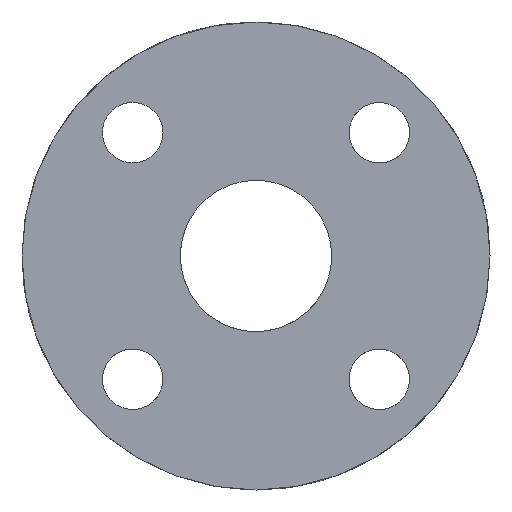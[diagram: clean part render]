
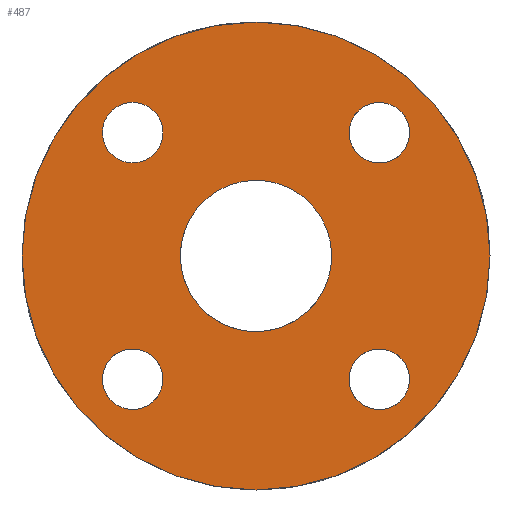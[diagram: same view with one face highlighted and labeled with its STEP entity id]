
A CAD part, left-side view. The second image highlights one B-rep face of the part: STEP entity #487.
In plain terms, the highlighted planar face has unit normal (-1, 0, 0).
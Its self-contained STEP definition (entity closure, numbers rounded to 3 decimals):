
#63=CARTESIAN_POINT('Vertex',(0.,10.539,11.853)) ;
#89=CARTESIAN_POINT('Vertex',(0.,16.331,15.017)) ;
#93=CARTESIAN_POINT('Control Point',(0.,10.539,11.853)) ;
#94=CARTESIAN_POINT('Control Point',(0.,10.788,11.398)) ;
#95=CARTESIAN_POINT('Control Point',(0.,11.125,10.992)) ;
#96=CARTESIAN_POINT('Control Point',(0.,11.54,10.658)) ;
#97=CARTESIAN_POINT('Control Point',(0.,12.477,10.171)) ;
#98=CARTESIAN_POINT('Control Point',(0.,13.529,10.074)) ;
#99=CARTESIAN_POINT('Control Point',(0.,14.059,10.131)) ;
#100=CARTESIAN_POINT('Control Point',(0.,15.066,10.45)) ;
#101=CARTESIAN_POINT('Control Point',(0.,15.878,11.125)) ;
#102=CARTESIAN_POINT('Control Point',(0.,16.212,11.54)) ;
#103=CARTESIAN_POINT('Control Point',(0.,16.699,12.477)) ;
#104=CARTESIAN_POINT('Control Point',(0.,16.796,13.529)) ;
#105=CARTESIAN_POINT('Control Point',(0.,16.739,14.059)) ;
#106=CARTESIAN_POINT('Control Point',(0.,16.58,14.562)) ;
#107=CARTESIAN_POINT('Control Point',(0.,16.331,15.017)) ;
#126=CARTESIAN_POINT('Axis2P3D Location',(0.,13.435,13.435)) ;
#388=CARTESIAN_POINT('Axis2P3D Location',(0.,0.,0.)) ;
#393=CARTESIAN_POINT('Axis2P3D Location',(0.,0.,0.)) ;
#397=CARTESIAN_POINT('Vertex',(0.,-25.5,0.)) ;
#399=CARTESIAN_POINT('Vertex',(0.,25.5,0.)) ;
#402=CARTESIAN_POINT('Axis2P3D Location',(0.,0.,0.)) ;
#415=CARTESIAN_POINT('Axis2P3D Location',(0.,0.,0.)) ;
#419=CARTESIAN_POINT('Vertex',(0.,-7.24,-3.955)) ;
#421=CARTESIAN_POINT('Vertex',(0.,7.24,3.955)) ;
#424=CARTESIAN_POINT('Axis2P3D Location',(0.,0.,0.)) ;
#433=CARTESIAN_POINT('Axis2P3D Location',(0.,-13.435,13.435)) ;
#437=CARTESIAN_POINT('Vertex',(0.,-15.017,16.331)) ;
#439=CARTESIAN_POINT('Vertex',(0.,-11.853,10.539)) ;
#442=CARTESIAN_POINT('Axis2P3D Location',(0.,-13.435,13.435)) ;
#451=CARTESIAN_POINT('Axis2P3D Location',(0.,-13.435,-13.435)) ;
#455=CARTESIAN_POINT('Vertex',(0.,-16.331,-15.017)) ;
#457=CARTESIAN_POINT('Vertex',(0.,-10.539,-11.853)) ;
#460=CARTESIAN_POINT('Axis2P3D Location',(0.,-13.435,-13.435)) ;
#469=CARTESIAN_POINT('Axis2P3D Location',(0.,13.435,-13.435)) ;
#473=CARTESIAN_POINT('Vertex',(0.,15.017,-16.331)) ;
#475=CARTESIAN_POINT('Vertex',(0.,11.853,-10.539)) ;
#478=CARTESIAN_POINT('Axis2P3D Location',(0.,13.435,-13.435)) ;
#127=DIRECTION('Axis2P3D Direction',(1.,0.,-0.)) ;
#389=DIRECTION('Axis2P3D Direction',(1.,0.,0.)) ;
#390=DIRECTION('Axis2P3D XDirection',(0.,1.,0.)) ;
#394=DIRECTION('Axis2P3D Direction',(1.,0.,0.)) ;
#403=DIRECTION('Axis2P3D Direction',(1.,0.,0.)) ;
#416=DIRECTION('Axis2P3D Direction',(1.,0.,0.)) ;
#425=DIRECTION('Axis2P3D Direction',(1.,0.,0.)) ;
#434=DIRECTION('Axis2P3D Direction',(1.,0.,0.)) ;
#443=DIRECTION('Axis2P3D Direction',(1.,0.,0.)) ;
#452=DIRECTION('Axis2P3D Direction',(1.,0.,0.)) ;
#461=DIRECTION('Axis2P3D Direction',(1.,0.,0.)) ;
#470=DIRECTION('Axis2P3D Direction',(1.,0.,0.)) ;
#479=DIRECTION('Axis2P3D Direction',(1.,0.,0.)) ;
#128=AXIS2_PLACEMENT_3D('Circle Axis2P3D',#126,#127,$) ;
#391=AXIS2_PLACEMENT_3D('Plane Axis2P3D',#388,#389,#390) ;
#395=AXIS2_PLACEMENT_3D('Circle Axis2P3D',#393,#394,$) ;
#404=AXIS2_PLACEMENT_3D('Circle Axis2P3D',#402,#403,$) ;
#417=AXIS2_PLACEMENT_3D('Circle Axis2P3D',#415,#416,$) ;
#426=AXIS2_PLACEMENT_3D('Circle Axis2P3D',#424,#425,$) ;
#435=AXIS2_PLACEMENT_3D('Circle Axis2P3D',#433,#434,$) ;
#444=AXIS2_PLACEMENT_3D('Circle Axis2P3D',#442,#443,$) ;
#453=AXIS2_PLACEMENT_3D('Circle Axis2P3D',#451,#452,$) ;
#462=AXIS2_PLACEMENT_3D('Circle Axis2P3D',#460,#461,$) ;
#471=AXIS2_PLACEMENT_3D('Circle Axis2P3D',#469,#470,$) ;
#480=AXIS2_PLACEMENT_3D('Circle Axis2P3D',#478,#479,$) ;
#408=ORIENTED_EDGE('',*,*,#401,.F.) ;
#409=ORIENTED_EDGE('',*,*,#406,.F.) ;
#412=ORIENTED_EDGE('',*,*,#108,.T.) ;
#413=ORIENTED_EDGE('',*,*,#130,.T.) ;
#430=ORIENTED_EDGE('',*,*,#423,.T.) ;
#431=ORIENTED_EDGE('',*,*,#428,.T.) ;
#448=ORIENTED_EDGE('',*,*,#441,.T.) ;
#449=ORIENTED_EDGE('',*,*,#446,.T.) ;
#466=ORIENTED_EDGE('',*,*,#459,.T.) ;
#467=ORIENTED_EDGE('',*,*,#464,.T.) ;
#484=ORIENTED_EDGE('',*,*,#477,.T.) ;
#485=ORIENTED_EDGE('',*,*,#482,.T.) ;
#414=FACE_BOUND('',#411,.T.) ;
#432=FACE_BOUND('',#429,.T.) ;
#450=FACE_BOUND('',#447,.T.) ;
#468=FACE_BOUND('',#465,.T.) ;
#486=FACE_BOUND('',#483,.T.) ;
#487=ADVANCED_FACE('TTM16',(#410,#414,#432,#450,#468,#486),#392,.F.) ;
#92=B_SPLINE_CURVE_WITH_KNOTS('',5,(#93,#94,#95,#96,#97,#98,#99,#100,#101,#102,#103,#104,#105,#106,#107),.UNSPECIFIED.,.F.,.U.,(6,3,3,3,6),(-5.184,-2.592,0.,2.592,5.184),.UNSPECIFIED.) ;
#129=CIRCLE('generated circle',#128,3.3) ;
#396=CIRCLE('generated circle',#395,25.5) ;
#405=CIRCLE('generated circle',#404,25.5) ;
#418=CIRCLE('generated circle',#417,8.25) ;
#427=CIRCLE('generated circle',#426,8.25) ;
#436=CIRCLE('generated circle',#435,3.3) ;
#445=CIRCLE('generated circle',#444,3.3) ;
#454=CIRCLE('generated circle',#453,3.3) ;
#463=CIRCLE('generated circle',#462,3.3) ;
#472=CIRCLE('generated circle',#471,3.3) ;
#481=CIRCLE('generated circle',#480,3.3) ;
#108=EDGE_CURVE('',#64,#90,#92,.T.) ;
#130=EDGE_CURVE('',#90,#64,#129,.T.) ;
#401=EDGE_CURVE('',#398,#400,#396,.T.) ;
#406=EDGE_CURVE('',#400,#398,#405,.T.) ;
#423=EDGE_CURVE('',#420,#422,#418,.T.) ;
#428=EDGE_CURVE('',#422,#420,#427,.T.) ;
#441=EDGE_CURVE('',#438,#440,#436,.T.) ;
#446=EDGE_CURVE('',#440,#438,#445,.T.) ;
#459=EDGE_CURVE('',#456,#458,#454,.T.) ;
#464=EDGE_CURVE('',#458,#456,#463,.T.) ;
#477=EDGE_CURVE('',#474,#476,#472,.T.) ;
#482=EDGE_CURVE('',#476,#474,#481,.T.) ;
#407=EDGE_LOOP('',(#408,#409)) ;
#411=EDGE_LOOP('',(#412,#413)) ;
#429=EDGE_LOOP('',(#430,#431)) ;
#447=EDGE_LOOP('',(#448,#449)) ;
#465=EDGE_LOOP('',(#466,#467)) ;
#483=EDGE_LOOP('',(#484,#485)) ;
#410=FACE_OUTER_BOUND('',#407,.T.) ;
#392=PLANE('',#391) ;
#64=VERTEX_POINT('',#63) ;
#90=VERTEX_POINT('',#89) ;
#398=VERTEX_POINT('',#397) ;
#400=VERTEX_POINT('',#399) ;
#420=VERTEX_POINT('',#419) ;
#422=VERTEX_POINT('',#421) ;
#438=VERTEX_POINT('',#437) ;
#440=VERTEX_POINT('',#439) ;
#456=VERTEX_POINT('',#455) ;
#458=VERTEX_POINT('',#457) ;
#474=VERTEX_POINT('',#473) ;
#476=VERTEX_POINT('',#475) ;
